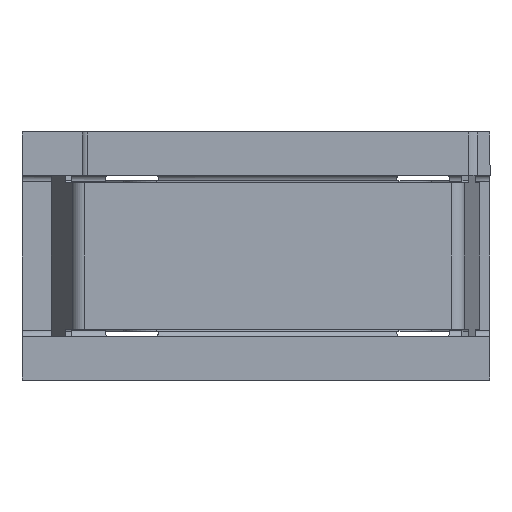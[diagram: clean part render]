
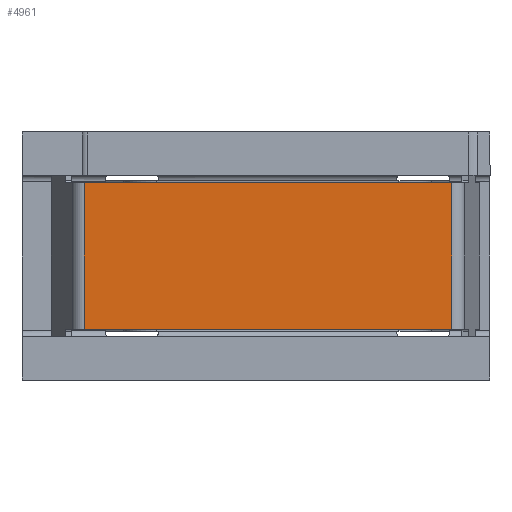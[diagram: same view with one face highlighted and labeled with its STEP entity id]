
A CAD part, front view. The second image highlights one B-rep face of the part: STEP entity #4961.
In plain terms, the highlighted planar face has unit normal (-0.014, -1, 0).
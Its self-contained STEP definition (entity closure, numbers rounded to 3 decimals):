
#84 = LINE ( 'NONE', #3051, #8328 ) ;
#359 = DIRECTION ( 'NONE',  ( 0., 0., -1. ) ) ;
#613 = CARTESIAN_POINT ( 'NONE',  ( 2.886, -24.353, 5.5 ) ) ;
#706 = EDGE_CURVE ( 'NONE', #5559, #4651, #84, .T. ) ;
#742 = ORIENTED_EDGE ( 'NONE', *, *, #706, .F. ) ;
#1124 = CARTESIAN_POINT ( 'NONE',  ( 19.918, -24.584, 5.5 ) ) ;
#1494 = ORIENTED_EDGE ( 'NONE', *, *, #4774, .F. ) ;
#1514 = EDGE_CURVE ( 'NONE', #5792, #9779, #7239, .T. ) ;
#1849 = DIRECTION ( 'NONE',  ( -1., 0.014, 0. ) ) ;
#1974 = VECTOR ( 'NONE', #2154, 1000. ) ;
#2154 = DIRECTION ( 'NONE',  ( 0., 0., 1. ) ) ;
#2261 = VECTOR ( 'NONE', #1849, 1000. ) ;
#2265 = DIRECTION ( 'NONE',  ( 1., -0.014, 0. ) ) ;
#2281 = LINE ( 'NONE', #1124, #4076 ) ;
#2521 = CARTESIAN_POINT ( 'NONE',  ( 2.886, -24.353, -3.4 ) ) ;
#2619 = DIRECTION ( 'NONE',  ( -1., 0.014, 0. ) ) ;
#3051 = CARTESIAN_POINT ( 'NONE',  ( 2.676, -24.35, 3.4 ) ) ;
#3102 = AXIS2_PLACEMENT_3D ( 'NONE', #9562, #5777, #2619 ) ;
#4076 = VECTOR ( 'NONE', #359, 1000. ) ;
#4651 = VERTEX_POINT ( 'NONE', #6668 ) ;
#4774 = EDGE_CURVE ( 'NONE', #9779, #5559, #7444, .T. ) ;
#4923 = CARTESIAN_POINT ( 'NONE',  ( 2.676, -24.35, -3.4 ) ) ;
#4961 = ADVANCED_FACE ( 'NONE', ( #8419 ), #9670, .F. ) ;
#5559 = VERTEX_POINT ( 'NONE', #6296 ) ;
#5665 = EDGE_LOOP ( 'NONE', ( #742, #1494, #8576, #8703 ) ) ;
#5777 = DIRECTION ( 'NONE',  ( 0.014, 1., 0. ) ) ;
#5792 = VERTEX_POINT ( 'NONE', #6530 ) ;
#6296 = CARTESIAN_POINT ( 'NONE',  ( 2.886, -24.353, 3.4 ) ) ;
#6530 = CARTESIAN_POINT ( 'NONE',  ( 19.918, -24.584, -3.4 ) ) ;
#6668 = CARTESIAN_POINT ( 'NONE',  ( 19.918, -24.584, 3.4 ) ) ;
#7239 = LINE ( 'NONE', #4923, #2261 ) ;
#7444 = LINE ( 'NONE', #613, #1974 ) ;
#8175 = EDGE_CURVE ( 'NONE', #4651, #5792, #2281, .T. ) ;
#8328 = VECTOR ( 'NONE', #2265, 1000. ) ;
#8419 = FACE_OUTER_BOUND ( 'NONE', #5665, .T. ) ;
#8576 = ORIENTED_EDGE ( 'NONE', *, *, #1514, .F. ) ;
#8703 = ORIENTED_EDGE ( 'NONE', *, *, #8175, .F. ) ;
#9562 = CARTESIAN_POINT ( 'NONE',  ( 2.676, -24.35, 5.5 ) ) ;
#9670 = PLANE ( 'NONE',  #3102 ) ;
#9779 = VERTEX_POINT ( 'NONE', #2521 ) ;
